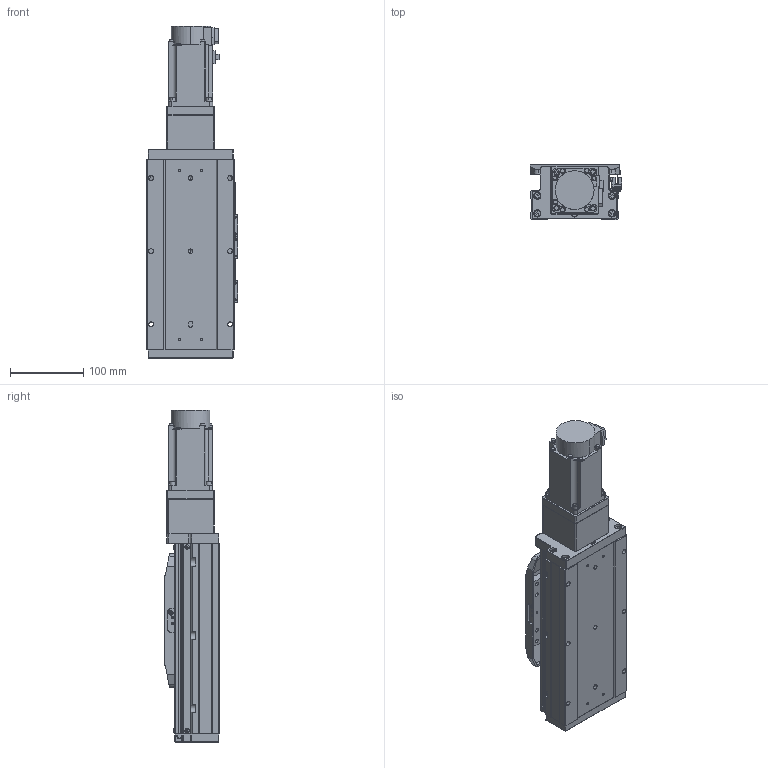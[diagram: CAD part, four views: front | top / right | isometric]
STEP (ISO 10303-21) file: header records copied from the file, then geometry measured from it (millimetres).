
FILE_DESCRIPTION (( 'STEP AP203' ), '1' );
FILE_NAME ('GTH12-50-BC-M40-C4.step', '2022-09-23T01:14:48', ( '微软用户' ), ( '微软中国' ), 'SwSTEP 2.0', 'SolidWorks 2020', '' );
FILE_SCHEMA (( 'CONFIG_CONTROL_DESIGN' ));
Length unit declared in the file: millimetre
Products named in the file (19): BTH-M3X5X6; GTH120-001_50; GBT 70.3-M3℅8; CTHA86-006-1_CTHA86-006-2; GTH120-003; GTH80-022; CTHA86-013; GTH120-006; GTH80-028; CTHA86-027; GTH120-004; GTH50-023; hg-kn43j_-s100_; GTH120-013; GTH50-024; GTH12-50-BC-M40-C4; GBT 70.1-M3℅6; GBT96.1-2002 3×0.8; GBT 70.1-M5×16
Assembly tree (62 placements, depth 2):
  GTH12-50-BC-M40-C4
    GTH120-001_50
    GTH120-003
    GTH120-006
    GTH120-004
    GTH120-013
    GBT 70.1-M3℅6  x14
    GBT 70.1-M5×16  x10
    GBT 70.3-M3℅8  x6
    GTH80-022
    GTH80-028  x2
    GTH50-023  x3
    GTH50-024  x3
    GBT96.1-2002 3×0.8  x6
    BTH-M3X5X6  x8
    CTHA86-006-1_CTHA86-006-2
    CTHA86-013
    CTHA86-027
    hg-kn43j_-s100_
Bounding box: 125.7 x 76 x 453.7 mm (x, y, z)
Volume: 2771701.5 mm3; surface area: 359042.3 mm2
Topology: 64 solids, 64 shells, 2326 faces, 5347 edges, 3253 vertices
Faces by surface type: plane 1208, cylinder 633, cone 307, torus 170, sphere 8
Entity records: 39992 total; most frequent: DIRECTION 6629, CARTESIAN_POINT 6374, ORIENTED_EDGE 6076, EDGE_CURVE 3038, AXIS2_PLACEMENT_3D 2317, VECTOR 1995, LINE 1995, VERTEX_POINT 1912
